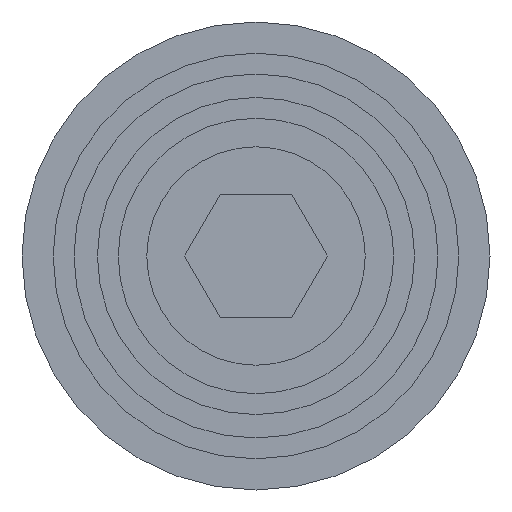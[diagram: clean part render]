
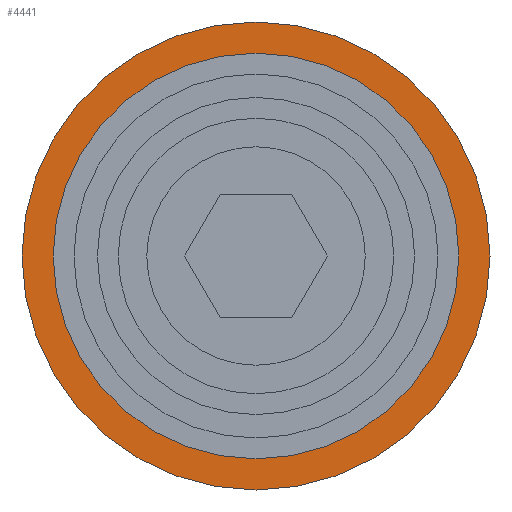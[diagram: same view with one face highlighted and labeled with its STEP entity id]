
A CAD part, front view. The second image highlights one B-rep face of the part: STEP entity #4441.
In plain terms, the highlighted planar face has unit normal (0, -1, 0).
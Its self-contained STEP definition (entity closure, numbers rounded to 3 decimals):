
#201 = DIRECTION ( 'NONE',  ( 0., 1., 0. ) ) ;
#571 = DIRECTION ( 'NONE',  ( 0., -1., 0. ) ) ;
#710 = AXIS2_PLACEMENT_3D ( 'NONE', #1729, #8418, #2725 ) ;
#1012 = CARTESIAN_POINT ( 'NONE',  ( 0., 0., 45. ) ) ;
#1232 = ORIENTED_EDGE ( 'NONE', *, *, #12408, .F. ) ;
#1729 = CARTESIAN_POINT ( 'NONE',  ( 0., 0., 0. ) ) ;
#1762 = PLANE ( 'NONE',  #3156 ) ;
#1881 = AXIS2_PLACEMENT_3D ( 'NONE', #5955, #201, #6903 ) ;
#2481 = CIRCLE ( 'NONE', #12257, 39. ) ;
#2725 = DIRECTION ( 'NONE',  ( 0., 0., 1. ) ) ;
#2760 = DIRECTION ( 'NONE',  ( 0., 0., 1. ) ) ;
#3156 = AXIS2_PLACEMENT_3D ( 'NONE', #12158, #8453, #2760 ) ;
#3205 = ORIENTED_EDGE ( 'NONE', *, *, #5843, .F. ) ;
#3234 = CARTESIAN_POINT ( 'NONE',  ( 0., 0., 0. ) ) ;
#3311 = EDGE_CURVE ( 'NONE', #10637, #5219, #11457, .T. ) ;
#4168 = DIRECTION ( 'NONE',  ( 0., 0., -1. ) ) ;
#4384 = ORIENTED_EDGE ( 'NONE', *, *, #3311, .F. ) ;
#4441 = ADVANCED_FACE ( 'NONE', ( #10973, #6498 ), #1762, .F. ) ;
#4532 = CARTESIAN_POINT ( 'NONE',  ( 0., 0., 39. ) ) ;
#5219 = VERTEX_POINT ( 'NONE', #1012 ) ;
#5843 = EDGE_CURVE ( 'NONE', #12218, #8729, #2481, .T. ) ;
#5955 = CARTESIAN_POINT ( 'NONE',  ( 0., 0., 0. ) ) ;
#6014 = ORIENTED_EDGE ( 'NONE', *, *, #10236, .F. ) ;
#6149 = CIRCLE ( 'NONE', #710, 45. ) ;
#6308 = CARTESIAN_POINT ( 'NONE',  ( 0., 0., 0. ) ) ;
#6498 = FACE_OUTER_BOUND ( 'NONE', #8494, .T. ) ;
#6526 = EDGE_LOOP ( 'NONE', ( #3205, #6014 ) ) ;
#6903 = DIRECTION ( 'NONE',  ( 0., 0., 1. ) ) ;
#7272 = DIRECTION ( 'NONE',  ( 0., 0., -1. ) ) ;
#7293 = CIRCLE ( 'NONE', #11396, 39. ) ;
#8418 = DIRECTION ( 'NONE',  ( 0., 1., 0. ) ) ;
#8453 = DIRECTION ( 'NONE',  ( 0., 1., 0. ) ) ;
#8494 = EDGE_LOOP ( 'NONE', ( #1232, #4384 ) ) ;
#8729 = VERTEX_POINT ( 'NONE', #4532 ) ;
#9871 = DIRECTION ( 'NONE',  ( 0., -1., 0. ) ) ;
#10236 = EDGE_CURVE ( 'NONE', #8729, #12218, #7293, .T. ) ;
#10543 = CARTESIAN_POINT ( 'NONE',  ( 0., 0., -45. ) ) ;
#10637 = VERTEX_POINT ( 'NONE', #10543 ) ;
#10973 = FACE_BOUND ( 'NONE', #6526, .T. ) ;
#11396 = AXIS2_PLACEMENT_3D ( 'NONE', #3234, #9871, #4168 ) ;
#11457 = CIRCLE ( 'NONE', #1881, 45. ) ;
#12031 = CARTESIAN_POINT ( 'NONE',  ( 0., 0., -39. ) ) ;
#12158 = CARTESIAN_POINT ( 'NONE',  ( 45., 0., 0. ) ) ;
#12218 = VERTEX_POINT ( 'NONE', #12031 ) ;
#12257 = AXIS2_PLACEMENT_3D ( 'NONE', #6308, #571, #7272 ) ;
#12408 = EDGE_CURVE ( 'NONE', #5219, #10637, #6149, .T. ) ;
